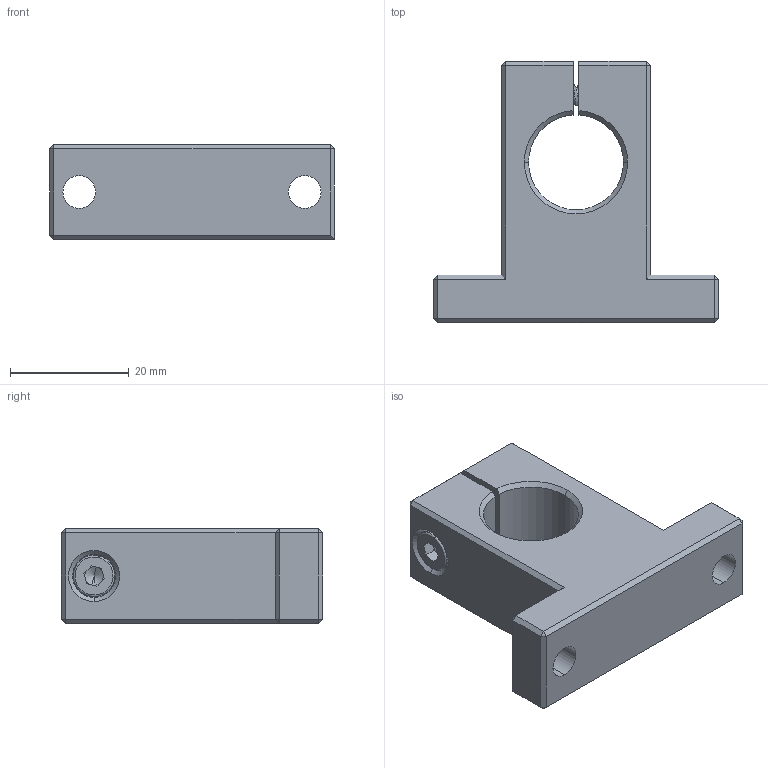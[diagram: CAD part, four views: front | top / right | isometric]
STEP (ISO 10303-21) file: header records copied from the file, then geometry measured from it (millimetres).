
FILE_DESCRIPTION (( 'STEP AP214' ), '1' );
FILE_NAME ('SK16.STEP', '2020-06-29T09:37:15', ( '' ), ( '' ), 'SwSTEP 2.0', 'SolidWorks 2018', '' );
FILE_SCHEMA (( 'AUTOMOTIVE_DESIGN' ));
Length unit declared in the file: millimetre
Products named in the file (3): SK16 Part2; SK16 Part1; SK16
Assembly tree (2 placements, depth 2):
  SK16
    SK16 Part1
    SK16 Part2
Bounding box: 48 x 44 x 16 mm (x, y, z)
Volume: 16517.3 mm3; surface area: 6871.4 mm2
Topology: 2 solids, 2 shells, 131 faces, 313 edges, 187 vertices
Faces by surface type: plane 62, cylinder 41, cone 18, bspline 6, torus 4
Entity records: 7899 total; most frequent: CARTESIAN_POINT 4906, ORIENTED_EDGE 622, DIRECTION 579, EDGE_CURVE 311, AXIS2_PLACEMENT_3D 200, VERTEX_POINT 187, LINE 179, VECTOR 179
